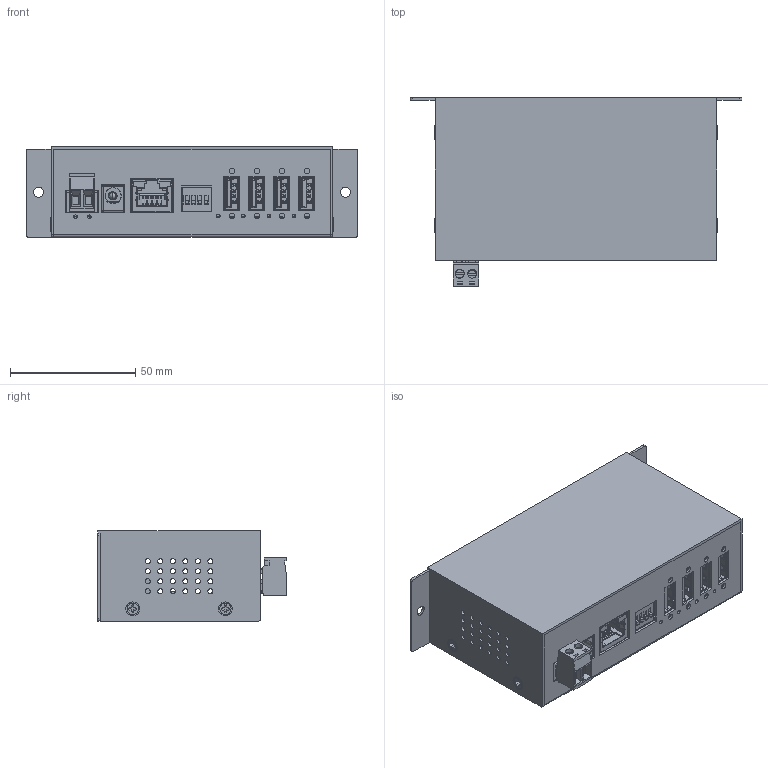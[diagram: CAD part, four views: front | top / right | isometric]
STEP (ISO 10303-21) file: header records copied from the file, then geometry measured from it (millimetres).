
FILE_DESCRIPTION(('FreeCAD Model'),'2;1');
FILE_NAME('Open CASCADE Shape Model','2024-09-02T13:02:01',(''),(''), 'Open CASCADE STEP processor 7.6','FreeCAD','Unknown');
FILE_SCHEMA(('AUTOMOTIVE_DESIGN { 1 0 10303 214 1 1 1 1 }'));
Length unit declared in the file: millimetre
Products named in the file (67): Unnamed; Reset_switch; Reset_pni002; Reset_pin001; Reset_cover; 6003HMVS_pcb_1; Reset_button; 691313510002_1; 691313510002_2; 691313510002_3; 691352710002_1; 691352710002_2; 691352710002_3; 691352710002_4; 691352710002_5; 691352710002_6; 691352710002_7; 691352710002_8; 694108301002_1; 694108301002_6; 694108301002_2; 694108301002_4; 74t0413_1-406541-5; xb-da-04rp; 614004184726_Mylar001; 614004184726_Pin1; 614004184726; 614004184726_Pin2; 614004184726_Pin3; 614004184726_Pin4; 614004184726_Shielding; 614004184726_Mylar; 614004184726_Mylar003; 614004184726_Pin005; 614004184726001; 614004184726_Pin006; 614004184726_Pin007; 614004184726_Pin008; 614004184726_Shielding001; 614004184726_Mylar002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
Assembly tree (66 placements, depth 3):
  Unnamed
    Reset_switch
    Reset_pni002
    Reset_pin001
    Reset_cover
    6003HMVS_pcb_1
    Reset_button
    691313510002_1
    691313510002_2
    691313510002_3
    691352710002_1
    691352710002_2
    691352710002_3
    691352710002_4
    691352710002_5
    691352710002_6
    691352710002_7
    691352710002_8
    694108301002_1
    694108301002_6
    694108301002_2
    694108301002_4
    74t0413_1-406541-5
    xb-da-04rp
    614004184726_Mylar001
      614004184726_Pin1
      614004184726
      614004184726_Pin2
      614004184726_Pin3
      614004184726_Pin4
      614004184726_Shielding
      614004184726_Mylar
    614004184726_Mylar003
      614004184726_Pin005
      614004184726001
      614004184726_Pin006
      614004184726_Pin007
      614004184726_Pin008
      614004184726_Shielding001
      614004184726_Mylar002
    614004184726_Mylar006
      614004184726_Pin009
      614004184726002
      614004184726_Pin010
      614004184726_Pin011
      614004184726_Pin012
      614004184726_Shielding002
      614004184726_Mylar004
    614004184726_Mylar007
      614004184726_Pin013
      614004184726001001
      614004184726_Pin014
      614004184726_Pin015
      614004184726_Pin016
      614004184726_Shielding003
      614004184726_Mylar005
    Case_down_6003HMVS
    Case_up_6003HMVS
    dineniso7046-2m3x48_8h1#001
    schraube_iso_7045-m2x5-4_8-h#001
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Bounding box: 132.5 x 75.3 x 36.2 mm (x, y, z)
Volume: 46673.7 mm3; surface area: 91654.3 mm2
Topology: 62 solids, 62 shells, 5501 faces, 15503 edges, 10163 vertices
Faces by surface type: plane 3997, cylinder 1243, cone 124, torus 101, sphere 22, extrusion 8, bspline 4, revolution 2
Full cylindrical faces by diameter (mm): 1.5 x7, 2 x48, 2.3 x12, 2.5 x12, 3 x1, 3.4 x1, 3.5 x8, 4 x2, 5.3 x4
Entity records: 185559 total; most frequent: CARTESIAN_POINT 32708, ORIENTED_EDGE 30970, DIRECTION 29170, EDGE_CURVE 15485, VECTOR 12250, LINE 12242, VERTEX_POINT 10163, AXIS2_PLACEMENT_3D 8459
